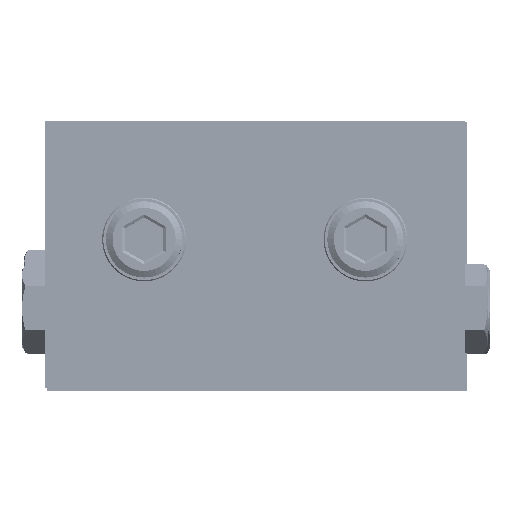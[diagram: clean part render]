
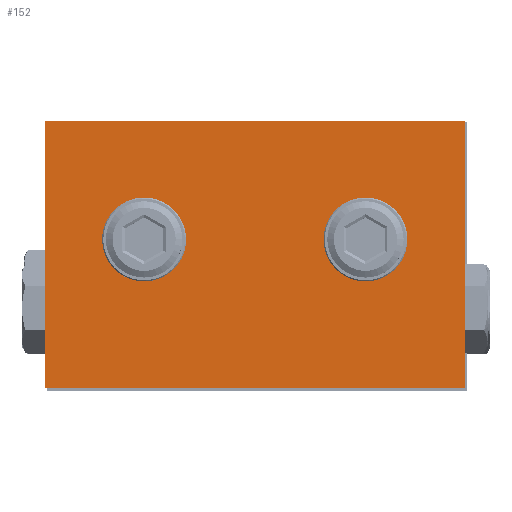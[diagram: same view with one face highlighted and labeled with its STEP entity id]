
A CAD part, top view. The second image highlights one B-rep face of the part: STEP entity #152.
In plain terms, the highlighted planar face has unit normal (0, 0, 1) as drawn and (0, 0, -1) by its records, which use the part's own axes.
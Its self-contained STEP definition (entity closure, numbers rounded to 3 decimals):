
#143 = VECTOR ( 'NONE', #13246, 1000. ) ;
#152 = ADVANCED_FACE ( 'NONE', ( #23380, #20541, #20836 ), #9197, .F. ) ;
#534 = VERTEX_POINT ( 'NONE', #29660 ) ;
#572 = DIRECTION ( 'NONE',  ( 0., -1., 0. ) ) ;
#1728 = AXIS2_PLACEMENT_3D ( 'NONE', #6089, #1807, #15451 ) ;
#1807 = DIRECTION ( 'NONE',  ( 0., 0., -1. ) ) ;
#3331 = EDGE_LOOP ( 'NONE', ( #4563 ) ) ;
#3784 = LINE ( 'NONE', #29488, #20911 ) ;
#3896 = LINE ( 'NONE', #20703, #143 ) ;
#4563 = ORIENTED_EDGE ( 'NONE', *, *, #16751, .F. ) ;
#6089 = CARTESIAN_POINT ( 'NONE',  ( 14.5, -15.5, -4.85 ) ) ;
#6295 = EDGE_CURVE ( 'NONE', #8005, #23215, #3784, .T. ) ;
#6543 = AXIS2_PLACEMENT_3D ( 'NONE', #18547, #29877, #27594 ) ;
#6755 = LINE ( 'NONE', #16255, #14267 ) ;
#7185 = ORIENTED_EDGE ( 'NONE', *, *, #9018, .F. ) ;
#7369 = EDGE_LOOP ( 'NONE', ( #12388, #7185, #22030, #19352 ) ) ;
#7540 = EDGE_CURVE ( 'NONE', #18777, #18777, #9236, .T. ) ;
#8005 = VERTEX_POINT ( 'NONE', #26274 ) ;
#8060 = CARTESIAN_POINT ( 'NONE',  ( 11.4, -15.5, -4.85 ) ) ;
#8636 = EDGE_CURVE ( 'NONE', #20832, #8005, #16970, .T. ) ;
#9018 = EDGE_CURVE ( 'NONE', #534, #20832, #6755, .T. ) ;
#9197 = PLANE ( 'NONE',  #6543 ) ;
#9236 = CIRCLE ( 'NONE', #20499, 3.1 ) ;
#9365 = DIRECTION ( 'NONE',  ( -1., 0., 0. ) ) ;
#10439 = DIRECTION ( 'NONE',  ( 1., 0., 0. ) ) ;
#11039 = CARTESIAN_POINT ( 'NONE',  ( -14.5, -15.5, -4.85 ) ) ;
#11621 = EDGE_CURVE ( 'NONE', #23215, #534, #3896, .T. ) ;
#11741 = CARTESIAN_POINT ( 'NONE',  ( -11.4, -15.5, -4.85 ) ) ;
#12233 = CARTESIAN_POINT ( 'NONE',  ( -27.5, 0., -4.85 ) ) ;
#12388 = ORIENTED_EDGE ( 'NONE', *, *, #8636, .F. ) ;
#13246 = DIRECTION ( 'NONE',  ( 0., 1., 0. ) ) ;
#14267 = VECTOR ( 'NONE', #9365, 1000. ) ;
#15212 = VECTOR ( 'NONE', #572, 1000. ) ;
#15306 = DIRECTION ( 'NONE',  ( 0., 0., -1. ) ) ;
#15451 = DIRECTION ( 'NONE',  ( -1., 0., 0. ) ) ;
#16255 = CARTESIAN_POINT ( 'NONE',  ( 0., 0., -4.85 ) ) ;
#16751 = EDGE_CURVE ( 'NONE', #19552, #19552, #25197, .T. ) ;
#16799 = CARTESIAN_POINT ( 'NONE',  ( 27.5, -35., -4.85 ) ) ;
#16970 = LINE ( 'NONE', #12233, #15212 ) ;
#17781 = CARTESIAN_POINT ( 'NONE',  ( -27.5, 0., -4.85 ) ) ;
#17848 = DIRECTION ( 'NONE',  ( 1., 0., 0. ) ) ;
#18547 = CARTESIAN_POINT ( 'NONE',  ( 0., 0., -4.85 ) ) ;
#18777 = VERTEX_POINT ( 'NONE', #11741 ) ;
#19352 = ORIENTED_EDGE ( 'NONE', *, *, #6295, .F. ) ;
#19552 = VERTEX_POINT ( 'NONE', #8060 ) ;
#20499 = AXIS2_PLACEMENT_3D ( 'NONE', #11039, #15306, #10439 ) ;
#20541 = FACE_BOUND ( 'NONE', #3331, .T. ) ;
#20703 = CARTESIAN_POINT ( 'NONE',  ( 27.5, 0., -4.85 ) ) ;
#20832 = VERTEX_POINT ( 'NONE', #17781 ) ;
#20836 = FACE_BOUND ( 'NONE', #26999, .T. ) ;
#20911 = VECTOR ( 'NONE', #17848, 1000. ) ;
#22030 = ORIENTED_EDGE ( 'NONE', *, *, #11621, .F. ) ;
#23215 = VERTEX_POINT ( 'NONE', #16799 ) ;
#23380 = FACE_OUTER_BOUND ( 'NONE', #7369, .T. ) ;
#25197 = CIRCLE ( 'NONE', #1728, 3.1 ) ;
#26274 = CARTESIAN_POINT ( 'NONE',  ( -27.5, -35., -4.85 ) ) ;
#26999 = EDGE_LOOP ( 'NONE', ( #29868 ) ) ;
#27594 = DIRECTION ( 'NONE',  ( 1., 0., 0. ) ) ;
#29488 = CARTESIAN_POINT ( 'NONE',  ( 0., -35., -4.85 ) ) ;
#29660 = CARTESIAN_POINT ( 'NONE',  ( 27.5, 0., -4.85 ) ) ;
#29868 = ORIENTED_EDGE ( 'NONE', *, *, #7540, .F. ) ;
#29877 = DIRECTION ( 'NONE',  ( 0., 0., 1. ) ) ;
